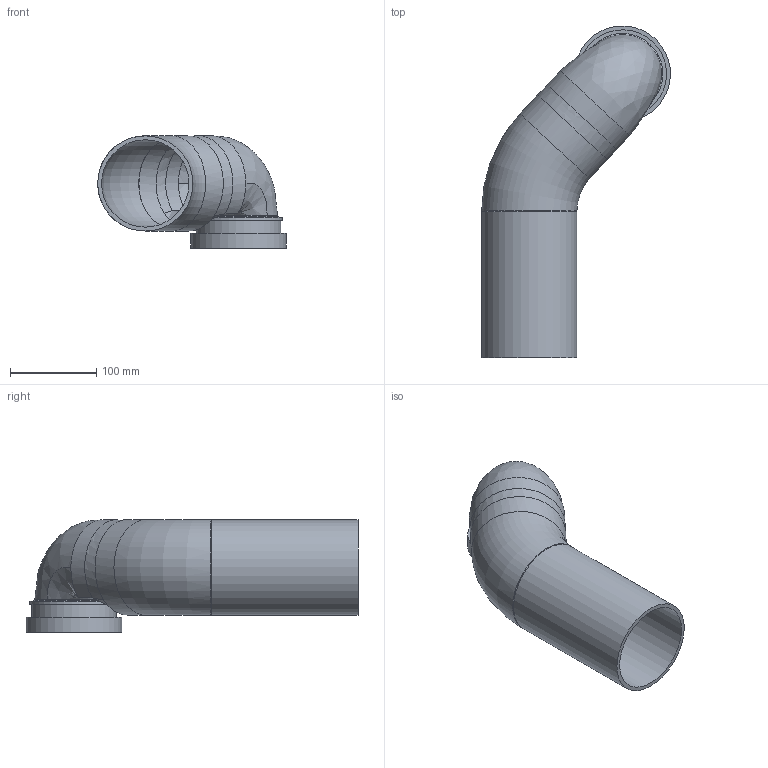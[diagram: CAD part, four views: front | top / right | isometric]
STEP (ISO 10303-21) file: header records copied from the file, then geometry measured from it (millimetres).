
FILE_DESCRIPTION(/* description */ (''),/* implementation_level */ '2;1');
FILE_NAME(/* name */ 'Z:\Geberit\Export\NewStep\367914.stp',/* time_stamp */ '2014-04-02T07:59:24+02:00',/* author */ ('ML'),/* organization */ (''),/* preprocessor_version */ 'ST-DEVELOPER v15.2',/* originating_system */ 'Autodesk Inventor 2014',/* authorisation */ '');
FILE_SCHEMA (('AUTOMOTIVE_DESIGN { 1 0 10303 214 3 1 1 }'));
Length unit declared in the file: millimetre
Products named in the file (3): 367493; 387035; 367914
Bounding box: 218.71 x 384.82 x 130.2 mm (x, y, z)
Volume: 607940.4 mm3; surface area: 305541.9 mm2
Topology: 4 solids, 4 shells, 53 faces, 111 edges, 70 vertices
Faces by surface type: cylinder 16, plane 16, bspline 16, torus 3, cone 2
Full cylindrical faces by diameter (mm): 83.025 x2, 91.45 x1, 92.2 x1, 93.575 x1, 98.2 x1, 101.35 x1, 102 x1, 103.05 x1, 103.65 x1, 110.4 x2, 111 x1
Entity records: 2498 total; most frequent: CARTESIAN_POINT 1398, ORIENTED_EDGE 192, DIRECTION 178, EDGE_CURVE 92, AXIS2_PLACEMENT_3D 84, EDGE_LOOP 83, VERTEX_POINT 69, STYLED_ITEM 57
